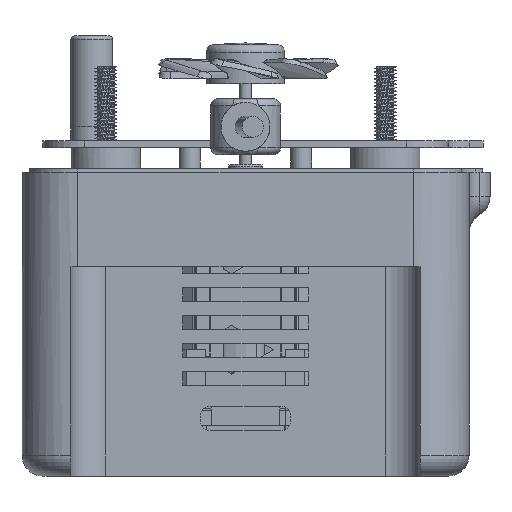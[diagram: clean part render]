
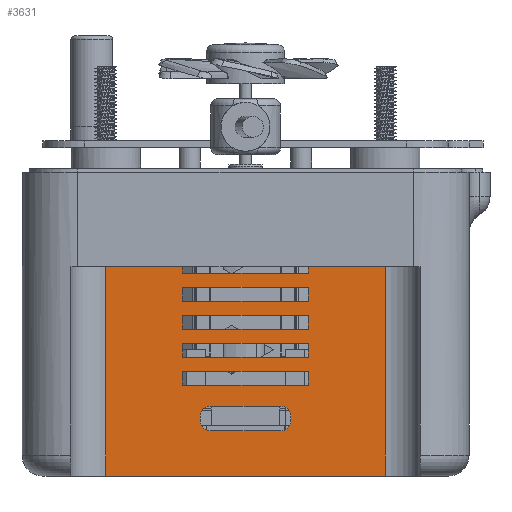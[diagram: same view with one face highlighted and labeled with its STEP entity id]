
A CAD part, left-side view. The second image highlights one B-rep face of the part: STEP entity #3631.
In plain terms, the highlighted planar face has unit normal (-1, 0, 0).
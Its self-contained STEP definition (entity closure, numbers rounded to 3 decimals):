
#3631=ADVANCED_FACE('',(#5152,#5153,#5154,#5155,#5156,#5157),#4571,.F.);
#4571=PLANE('',#24074);
#5152=FACE_BOUND('',#6076,.T.);
#5153=FACE_BOUND('',#6077,.T.);
#5154=FACE_BOUND('',#6078,.T.);
#5155=FACE_BOUND('',#6079,.T.);
#5156=FACE_BOUND('',#6080,.T.);
#5157=FACE_BOUND('',#6081,.T.);
#6076=EDGE_LOOP('',(#10772,#10773,#10774,#10775));
#6077=EDGE_LOOP('',(#10776,#10777,#10778,#10779));
#6078=EDGE_LOOP('',(#10780,#10781,#10782,#10783,#10784,#10785,#10786,#10787));
#6079=EDGE_LOOP('',(#10788,#10789,#10790,#10791));
#6080=EDGE_LOOP('',(#10792,#10793,#10794,#10795));
#6081=EDGE_LOOP('',(#10796,#10797,#10798,#10799,#10800,#10801,#10802,#10803));
#7278=CIRCLE('',#24070,1.5);
#7279=CIRCLE('',#24071,1.5);
#7280=CIRCLE('',#24072,1.5);
#7281=CIRCLE('',#24073,1.5);
#10772=ORIENTED_EDGE('',*,*,#17673,.F.);
#10773=ORIENTED_EDGE('',*,*,#17674,.F.);
#10774=ORIENTED_EDGE('',*,*,#17675,.F.);
#10775=ORIENTED_EDGE('',*,*,#17676,.F.);
#10776=ORIENTED_EDGE('',*,*,#17677,.F.);
#10777=ORIENTED_EDGE('',*,*,#17678,.F.);
#10778=ORIENTED_EDGE('',*,*,#17679,.F.);
#10779=ORIENTED_EDGE('',*,*,#17680,.F.);
#10780=ORIENTED_EDGE('',*,*,#17681,.F.);
#10781=ORIENTED_EDGE('',*,*,#17682,.T.);
#10782=ORIENTED_EDGE('',*,*,#17683,.F.);
#10783=ORIENTED_EDGE('',*,*,#17684,.T.);
#10784=ORIENTED_EDGE('',*,*,#17685,.F.);
#10785=ORIENTED_EDGE('',*,*,#17686,.T.);
#10786=ORIENTED_EDGE('',*,*,#17687,.F.);
#10787=ORIENTED_EDGE('',*,*,#17688,.T.);
#10788=ORIENTED_EDGE('',*,*,#17689,.F.);
#10789=ORIENTED_EDGE('',*,*,#17690,.F.);
#10790=ORIENTED_EDGE('',*,*,#17691,.F.);
#10791=ORIENTED_EDGE('',*,*,#17692,.F.);
#10792=ORIENTED_EDGE('',*,*,#17693,.F.);
#10793=ORIENTED_EDGE('',*,*,#17694,.F.);
#10794=ORIENTED_EDGE('',*,*,#17695,.F.);
#10795=ORIENTED_EDGE('',*,*,#17696,.F.);
#10796=ORIENTED_EDGE('',*,*,#17697,.F.);
#10797=ORIENTED_EDGE('',*,*,#17698,.F.);
#10798=ORIENTED_EDGE('',*,*,#17699,.F.);
#10799=ORIENTED_EDGE('',*,*,#17700,.T.);
#10800=ORIENTED_EDGE('',*,*,#17701,.T.);
#10801=ORIENTED_EDGE('',*,*,#17702,.F.);
#10802=ORIENTED_EDGE('',*,*,#17703,.T.);
#10803=ORIENTED_EDGE('',*,*,#17704,.T.);
#15070=VERTEX_POINT('',#71728);
#15071=VERTEX_POINT('',#71729);
#15072=VERTEX_POINT('',#71731);
#15073=VERTEX_POINT('',#71733);
#15074=VERTEX_POINT('',#71736);
#15075=VERTEX_POINT('',#71737);
#15076=VERTEX_POINT('',#71739);
#15077=VERTEX_POINT('',#71741);
#15078=VERTEX_POINT('',#71744);
#15079=VERTEX_POINT('',#71745);
#15080=VERTEX_POINT('',#71747);
#15081=VERTEX_POINT('',#71749);
#15082=VERTEX_POINT('',#71751);
#15083=VERTEX_POINT('',#71753);
#15084=VERTEX_POINT('',#71755);
#15085=VERTEX_POINT('',#71757);
#15086=VERTEX_POINT('',#71760);
#15087=VERTEX_POINT('',#71761);
#15088=VERTEX_POINT('',#71763);
#15089=VERTEX_POINT('',#71765);
#15090=VERTEX_POINT('',#71768);
#15091=VERTEX_POINT('',#71769);
#15092=VERTEX_POINT('',#71771);
#15093=VERTEX_POINT('',#71773);
#15094=VERTEX_POINT('',#71776);
#15095=VERTEX_POINT('',#71777);
#15096=VERTEX_POINT('',#71779);
#15097=VERTEX_POINT('',#71781);
#15098=VERTEX_POINT('',#71783);
#15099=VERTEX_POINT('',#71785);
#15100=VERTEX_POINT('',#71787);
#15101=VERTEX_POINT('',#71789);
#17673=EDGE_CURVE('',#15070,#15071,#20096,.T.);
#17674=EDGE_CURVE('',#15072,#15070,#20097,.T.);
#17675=EDGE_CURVE('',#15073,#15072,#20098,.T.);
#17676=EDGE_CURVE('',#15071,#15073,#20099,.T.);
#17677=EDGE_CURVE('',#15074,#15075,#20100,.T.);
#17678=EDGE_CURVE('',#15076,#15074,#20101,.T.);
#17679=EDGE_CURVE('',#15077,#15076,#20102,.T.);
#17680=EDGE_CURVE('',#15075,#15077,#20103,.T.);
#17681=EDGE_CURVE('',#15078,#15079,#20104,.T.);
#17682=EDGE_CURVE('',#15078,#15080,#7278,.T.);
#17683=EDGE_CURVE('',#15081,#15080,#20105,.T.);
#17684=EDGE_CURVE('',#15081,#15082,#7279,.T.);
#17685=EDGE_CURVE('',#15083,#15082,#20106,.T.);
#17686=EDGE_CURVE('',#15083,#15084,#7280,.T.);
#17687=EDGE_CURVE('',#15085,#15084,#20107,.T.);
#17688=EDGE_CURVE('',#15085,#15079,#7281,.T.);
#17689=EDGE_CURVE('',#15086,#15087,#20108,.T.);
#17690=EDGE_CURVE('',#15088,#15086,#20109,.T.);
#17691=EDGE_CURVE('',#15089,#15088,#20110,.T.);
#17692=EDGE_CURVE('',#15087,#15089,#20111,.T.);
#17693=EDGE_CURVE('',#15090,#15091,#20112,.T.);
#17694=EDGE_CURVE('',#15092,#15090,#20113,.T.);
#17695=EDGE_CURVE('',#15093,#15092,#20114,.T.);
#17696=EDGE_CURVE('',#15091,#15093,#20115,.T.);
#17697=EDGE_CURVE('',#15094,#15095,#20116,.T.);
#17698=EDGE_CURVE('',#15096,#15094,#20117,.T.);
#17699=EDGE_CURVE('',#15097,#15096,#20118,.T.);
#17700=EDGE_CURVE('',#15097,#15098,#20119,.T.);
#17701=EDGE_CURVE('',#15098,#15099,#20120,.T.);
#17702=EDGE_CURVE('',#15100,#15099,#20121,.T.);
#17703=EDGE_CURVE('',#15100,#15101,#20122,.T.);
#17704=EDGE_CURVE('',#15101,#15095,#20123,.T.);
#20096=LINE('',#71727,#22021);
#20097=LINE('',#71730,#22022);
#20098=LINE('',#71732,#22023);
#20099=LINE('',#71734,#22024);
#20100=LINE('',#71735,#22025);
#20101=LINE('',#71738,#22026);
#20102=LINE('',#71740,#22027);
#20103=LINE('',#71742,#22028);
#20104=LINE('',#71743,#22029);
#20105=LINE('',#71748,#22030);
#20106=LINE('',#71752,#22031);
#20107=LINE('',#71756,#22032);
#20108=LINE('',#71759,#22033);
#20109=LINE('',#71762,#22034);
#20110=LINE('',#71764,#22035);
#20111=LINE('',#71766,#22036);
#20112=LINE('',#71767,#22037);
#20113=LINE('',#71770,#22038);
#20114=LINE('',#71772,#22039);
#20115=LINE('',#71774,#22040);
#20116=LINE('',#71775,#22041);
#20117=LINE('',#71778,#22042);
#20118=LINE('',#71780,#22043);
#20119=LINE('',#71782,#22044);
#20120=LINE('',#71784,#22045);
#20121=LINE('',#71786,#22046);
#20122=LINE('',#71788,#22047);
#20123=LINE('',#71790,#22048);
#22021=VECTOR('',#28063,1.);
#22022=VECTOR('',#28064,1.);
#22023=VECTOR('',#28065,1.);
#22024=VECTOR('',#28066,1.);
#22025=VECTOR('',#28067,1.);
#22026=VECTOR('',#28068,1.);
#22027=VECTOR('',#28069,1.);
#22028=VECTOR('',#28070,1.);
#22029=VECTOR('',#28071,1.);
#22030=VECTOR('',#28074,1.);
#22031=VECTOR('',#28077,1.);
#22032=VECTOR('',#28080,1.);
#22033=VECTOR('',#28083,1.);
#22034=VECTOR('',#28084,1.);
#22035=VECTOR('',#28085,1.);
#22036=VECTOR('',#28086,1.);
#22037=VECTOR('',#28087,1.);
#22038=VECTOR('',#28088,1.);
#22039=VECTOR('',#28089,1.);
#22040=VECTOR('',#28090,1.);
#22041=VECTOR('',#28091,1.);
#22042=VECTOR('',#28092,1.);
#22043=VECTOR('',#28093,1.);
#22044=VECTOR('',#28094,1.);
#22045=VECTOR('',#28095,1.);
#22046=VECTOR('',#28096,1.);
#22047=VECTOR('',#28097,1.);
#22048=VECTOR('',#28098,1.);
#24070=AXIS2_PLACEMENT_3D('',#71746,#28072,#28073);
#24071=AXIS2_PLACEMENT_3D('',#71750,#28075,#28076);
#24072=AXIS2_PLACEMENT_3D('',#71754,#28078,#28079);
#24073=AXIS2_PLACEMENT_3D('',#71758,#28081,#28082);
#24074=AXIS2_PLACEMENT_3D('',#71791,#28099,#28100);
#28063=DIRECTION('',(0.,0.,-1.));
#28064=DIRECTION('',(0.,1.,0.));
#28065=DIRECTION('',(0.,0.,1.));
#28066=DIRECTION('',(0.,-1.,0.));
#28067=DIRECTION('',(0.,1.,0.));
#28068=DIRECTION('',(0.,0.,1.));
#28069=DIRECTION('',(0.,-1.,0.));
#28070=DIRECTION('',(0.,0.,-1.));
#28071=DIRECTION('',(0.,1.,0.));
#28072=DIRECTION('',(1.,0.,0.));
#28073=DIRECTION('',(0.,1.,0.));
#28074=DIRECTION('',(0.,0.,1.));
#28075=DIRECTION('',(1.,0.,0.));
#28076=DIRECTION('',(0.,1.,0.));
#28077=DIRECTION('',(0.,-1.,0.));
#28078=DIRECTION('',(1.,0.,0.));
#28079=DIRECTION('',(0.,1.,0.));
#28080=DIRECTION('',(0.,0.,-1.));
#28081=DIRECTION('',(1.,0.,0.));
#28082=DIRECTION('',(0.,1.,0.));
#28083=DIRECTION('',(0.,1.,0.));
#28084=DIRECTION('',(0.,0.,1.));
#28085=DIRECTION('',(0.,-1.,0.));
#28086=DIRECTION('',(0.,0.,-1.));
#28087=DIRECTION('',(0.,1.,0.));
#28088=DIRECTION('',(0.,0.,1.));
#28089=DIRECTION('',(0.,-1.,0.));
#28090=DIRECTION('',(0.,0.,-1.));
#28091=DIRECTION('',(0.,0.,1.));
#28092=DIRECTION('',(0.,-1.,0.));
#28093=DIRECTION('',(0.,0.,-1.));
#28094=DIRECTION('',(0.,1.,0.));
#28095=DIRECTION('',(0.,0.,-1.));
#28096=DIRECTION('',(0.,1.,0.));
#28097=DIRECTION('',(0.,0.,1.));
#28098=DIRECTION('',(0.,1.,0.));
#28099=DIRECTION('',(1.,0.,0.));
#28100=DIRECTION('',(0.,1.,0.));
#71727=CARTESIAN_POINT('',(-15.,9.,-6.));
#71728=CARTESIAN_POINT('',(-15.,9.,10.));
#71729=CARTESIAN_POINT('',(-15.,9.,8.));
#71730=CARTESIAN_POINT('',(-15.,-25.,10.));
#71731=CARTESIAN_POINT('',(-15.,-9.,10.));
#71732=CARTESIAN_POINT('',(-15.,-9.,-6.));
#71733=CARTESIAN_POINT('',(-15.,-9.,8.));
#71734=CARTESIAN_POINT('',(-15.,-25.,8.));
#71735=CARTESIAN_POINT('',(-15.,-25.,2.));
#71736=CARTESIAN_POINT('',(-15.,-9.,2.));
#71737=CARTESIAN_POINT('',(-15.,9.,2.));
#71738=CARTESIAN_POINT('',(-15.,-9.,-6.));
#71739=CARTESIAN_POINT('',(-15.,-9.,0.));
#71740=CARTESIAN_POINT('',(-15.,-25.,0.));
#71741=CARTESIAN_POINT('',(-15.,9.,0.));
#71742=CARTESIAN_POINT('',(-15.,9.,-6.));
#71743=CARTESIAN_POINT('',(-15.,-25.,-7.));
#71744=CARTESIAN_POINT('',(-15.,-5.,-7.));
#71745=CARTESIAN_POINT('',(-15.,5.,-7.));
#71746=CARTESIAN_POINT('',(-15.,-5.,-8.5));
#71747=CARTESIAN_POINT('',(-15.,-6.5,-8.5));
#71748=CARTESIAN_POINT('',(-15.,-6.5,-6.));
#71749=CARTESIAN_POINT('',(-15.,-6.5,-9.));
#71750=CARTESIAN_POINT('',(-15.,-5.,-9.));
#71751=CARTESIAN_POINT('',(-15.,-5.,-10.5));
#71752=CARTESIAN_POINT('',(-15.,-25.,-10.5));
#71753=CARTESIAN_POINT('',(-15.,5.,-10.5));
#71754=CARTESIAN_POINT('',(-15.,5.,-9.));
#71755=CARTESIAN_POINT('',(-15.,6.5,-9.));
#71756=CARTESIAN_POINT('',(-15.,6.5,-6.));
#71757=CARTESIAN_POINT('',(-15.,6.5,-8.5));
#71758=CARTESIAN_POINT('',(-15.,5.,-8.5));
#71759=CARTESIAN_POINT('',(-15.,-25.,-2.));
#71760=CARTESIAN_POINT('',(-15.,-9.,-2.));
#71761=CARTESIAN_POINT('',(-15.,9.,-2.));
#71762=CARTESIAN_POINT('',(-15.,-9.,-6.));
#71763=CARTESIAN_POINT('',(-15.,-9.,-4.));
#71764=CARTESIAN_POINT('',(-15.,-25.,-4.));
#71765=CARTESIAN_POINT('',(-15.,9.,-4.));
#71766=CARTESIAN_POINT('',(-15.,9.,-6.));
#71767=CARTESIAN_POINT('',(-15.,-25.,6.));
#71768=CARTESIAN_POINT('',(-15.,-9.,6.));
#71769=CARTESIAN_POINT('',(-15.,9.,6.));
#71770=CARTESIAN_POINT('',(-15.,-9.,-6.));
#71771=CARTESIAN_POINT('',(-15.,-9.,4.));
#71772=CARTESIAN_POINT('',(-15.,-25.,4.));
#71773=CARTESIAN_POINT('',(-15.,9.,4.));
#71774=CARTESIAN_POINT('',(-15.,9.,-6.));
#71775=CARTESIAN_POINT('',(-15.,-9.,-6.));
#71776=CARTESIAN_POINT('',(-15.,-9.,12.));
#71777=CARTESIAN_POINT('',(-15.,-9.,13.));
#71778=CARTESIAN_POINT('',(-15.,-25.,12.));
#71779=CARTESIAN_POINT('',(-15.,9.,12.));
#71780=CARTESIAN_POINT('',(-15.,9.,-6.));
#71781=CARTESIAN_POINT('',(-15.,9.,13.));
#71782=CARTESIAN_POINT('',(-15.,-32.,13.));
#71783=CARTESIAN_POINT('',(-15.,20.,13.));
#71784=CARTESIAN_POINT('',(-15.,20.,-17.));
#71785=CARTESIAN_POINT('',(-15.,20.,-17.));
#71786=CARTESIAN_POINT('',(-15.,-32.,-17.));
#71787=CARTESIAN_POINT('',(-15.,-20.,-17.));
#71788=CARTESIAN_POINT('',(-15.,-20.,13.));
#71789=CARTESIAN_POINT('',(-15.,-20.,13.));
#71790=CARTESIAN_POINT('',(-15.,-32.,13.));
#71791=CARTESIAN_POINT('',(-15.,-25.,-6.));
